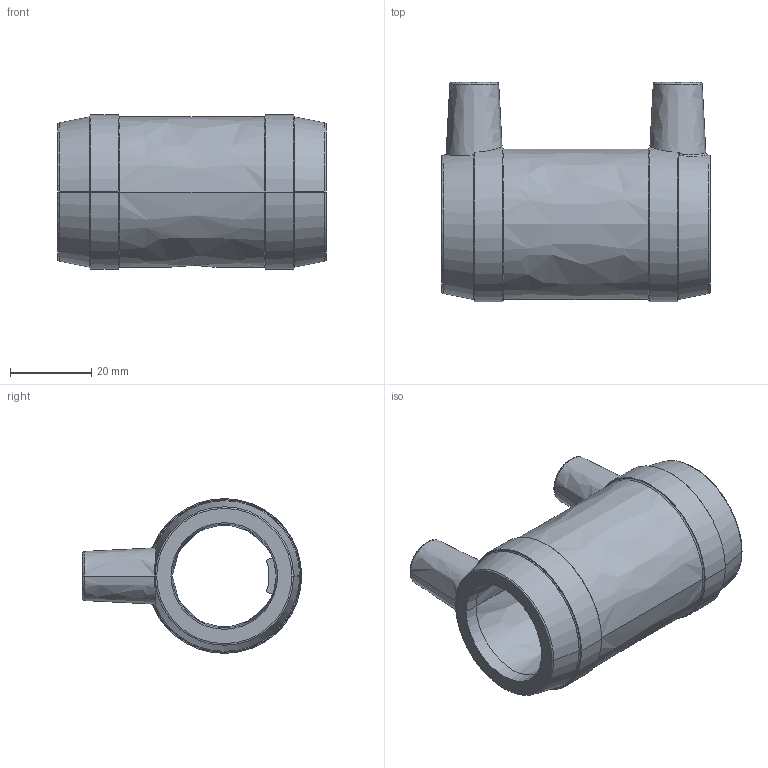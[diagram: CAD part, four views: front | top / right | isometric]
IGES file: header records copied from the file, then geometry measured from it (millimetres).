
Start section:  PTC IGES file: mb_d025_01.igs
Global section: file name: mb_d025_01.igs; native system: Pro/ENGINEER by Parametric Technology Corporation; preprocessor: 2011490; author: mtunjic; organization: Unknown; date: 20130805.164231; units: millimetre
Bounding box: 66 x 53.88 x 38 mm (x, y, z)
Surface area: 15242.4 mm2 (no closed solid volume)
Topology: 0 solids, 0 shells, 180 faces, 912 edges, 912 vertices
Faces by surface type: bspline 180
